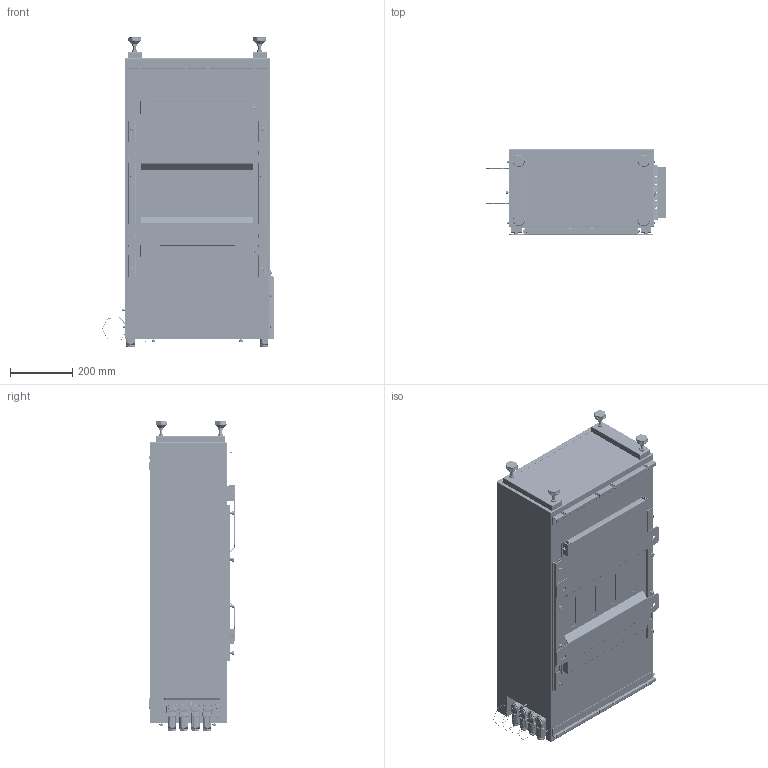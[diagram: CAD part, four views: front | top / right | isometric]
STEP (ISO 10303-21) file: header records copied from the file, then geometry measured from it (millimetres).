
FILE_DESCRIPTION (( 'STEP AP214' ), '1' );
FILE_NAME ('HELIOS.STEP', '2025-07-23T21:48:11', ( '' ), ( '' ), 'SwSTEP 2.0', 'SolidWorks 2020', '' );
FILE_SCHEMA (( 'AUTOMOTIVE_DESIGN' ));
Length unit declared in the file: millimetre
Products named in the file (169): 3d__-____-03a_igs_9_.STEP; prt0009_1.STEP; _____-1-7.STEP; m4x5x2-____.STEP; 3d__-____-03a_igs.STEP; s-m3-2.STEP; rd44707e8dt8bt_asm_2.STEP; prt0023_1.STEP; prt0007_1.STEP; manifold_solid_brep_2602_1.STEP; prt0015_1.STEP; shanggaijiaqiangjin.STEP; 3d__-____-03a_igs_5_.STEP; ____.STEP; faston_female_terminal.STEP; gb29_2-m4x12.STEP; manifold_solid_brep_2609_1.STEP; manifold_solid_brep_2617_1.STEP; ___.STEP; asm0001bbb_asm_1_asm_1.STEP; ____-2-12.STEP; manifold_solid_brep_2619_1.STEP; prt0017_1.STEP; zhaxiankou.STEP; cvp-rh_iec-2p_asm.STEP; manifold_solid_brep_2607_1.STEP; prt0014_1.STEP; m7_______-7-solid1.STEP; 3d__-____-03a-44802.STEP; prt0011_1.STEP; 01-battery-box.STEP; bb0001_3_1_1.STEP; 3d__-____-03a_igs_7_.STEP; ___-13.STEP; ____-0.STEP; manifold_solid_brep_2613_1.STEP; ______.STEP; xb-pl3508-g3_5_21.STEP; rh-1p-switch_asm_1.STEP; 3d__-____-03a_1.STEP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
Assembly tree (407 placements, depth 7):
  HELIOS
    01-battery-box.STEP
      ____.STEP  x2
        ____-0.STEP
        s-m6-1.STEP
      jiaobeizhijia.STEP  x2
        __zhijia.STEP
        s-m8-1.STEP
      01-battery-box-1.STEP
      bso-m5x10.STEP  x20
      ____-2.STEP  x2
      ____-3.STEP  x2
      bs-m4-11_1.STEP  x34
      s-m5-2.STEP  x22
      nfh-m4x12.STEP  x8
      ____-1.STEP
      bso-3_5m3x15.STEP  x6
      b-m4-1_5.STEP  x6
      nfh-m5x10.STEP  x2
      b-m5-1_5.STEP
      zhaxiankou.STEP  x4
      bs-m6.STEP  x4
    00-top-cover.STEP
      top-cover.STEP
      fapaojiao-1.STEP
      shanggaijiaqiangjin.STEP  x2
      helios.STEP
      ds-logo.STEP
    rea6-c_24_5a___.STEP  x4
      rea6-c_24_5aa__asm_1.STEP
        asm0001aaa_asm_1_asm_1.STEP
          245-245aa0001_17_1_1_1.STEP
          0001_6_1_1_1.STEP
      ______.STEP
    rea6-c_24_5b___.STEP  x4
      rea6-c_24_5bb__asm_1.STEP
        asm0001bbb_asm_1_asm_1.STEP
          245-245bb0001_14_1_1.STEP
          bb0001_3_1_1.STEP
    copper-2.STEP
      copper-2-4.STEP
      s-m3-2.STEP  x2
    ____-2-5.STEP
      kongkaizhijia-2.STEP
      s-m3-2.STEP  x4
    ______-6.STEP
      copper-3-rkd.STEP
      s-m8-2.STEP
    cvp-rh_iec-2p_asm.STEP
      cvp-rh_iec-2p_asm_3.STEP
        rh-1p-switch_asm_1.STEP
          asm0002_asm_1.STEP
            asm0003_asm_1.STEP
              prt0003_1.STEP
              prt0005_1.STEP
              prt0006_1.STEP
              prt0007_1.STEP
              prt0008_1.STEP
              prt0009_1.STEP
              prt0010_1.STEP
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Bounding box: 577.4 x 273.2 x 993.75 mm (x, y, z)
Topology: 315 solids, 612 shells, 48945 faces, 128508 edges, 81611 vertices
Faces by surface type: plane 22436, cylinder 15401, cone 3929, torus 3780, bspline 2860, sphere 539
Entity records: 885027 total; most frequent: CARTESIAN_POINT 310897, ORIENTED_EDGE 125522, DIRECTION 105863, EDGE_CURVE 62796, VERTEX_POINT 40136, AXIS2_PLACEMENT_3D 36153, LINE 33557, VECTOR 33557
